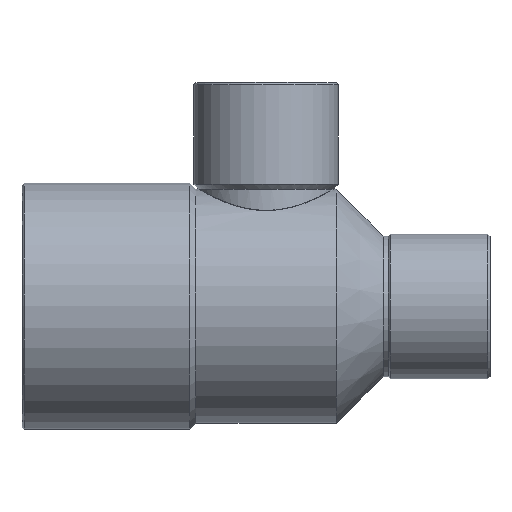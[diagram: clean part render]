
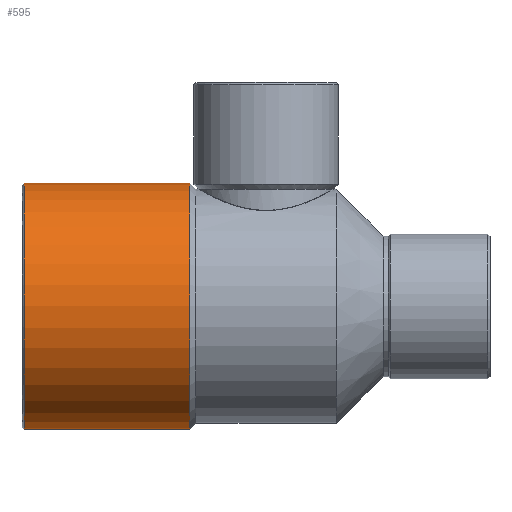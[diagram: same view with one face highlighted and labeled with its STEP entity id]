
A CAD part, top view. The second image highlights one B-rep face of the part: STEP entity #595.
In plain terms, the highlighted cylindrical face has radius 12.1 mm (diameter 24.2 mm), a partial arc.
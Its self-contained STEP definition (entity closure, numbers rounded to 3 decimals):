
#130=CARTESIAN_POINT('',(-7.518,12.1,0.0));
#131=VERTEX_POINT('',#130);
#138=CARTESIAN_POINT('',(-7.518,-12.1,0.));
#139=VERTEX_POINT('',#138);
#140=CARTESIAN_POINT('',(-7.518,0.0,0.0));
#141=DIRECTION('',(1.0,0.0,0.0));
#142=DIRECTION('',(0.0,1.0,0.0));
#143=AXIS2_PLACEMENT_3D('',#140,#141,#142);
#144=CIRCLE('',#143,12.1);
#145=EDGE_CURVE('',#131,#139,#144,.T.);
#564=CARTESIAN_POINT('',(-15.759,0.0,0.0));
#565=DIRECTION('',(1.0,0.0,0.0));
#566=DIRECTION('',(0.0,1.0,0.0));
#567=AXIS2_PLACEMENT_3D('',#564,#565,#566);
#568=CYLINDRICAL_SURFACE('',#567,12.1);
#569=CARTESIAN_POINT('',(-23.8,12.1,0.));
#570=VERTEX_POINT('',#569);
#571=CARTESIAN_POINT('',(-23.8,12.1,0.));
#572=DIRECTION('',(1.0,0.0,0.0));
#573=VECTOR('',#572,16.282);
#574=LINE('',#571,#573);
#575=EDGE_CURVE('',#570,#131,#574,.T.);
#576=ORIENTED_EDGE('',*,*,#575,.F.);
#577=CARTESIAN_POINT('',(-23.8,-12.1,0.));
#578=VERTEX_POINT('',#577);
#579=CARTESIAN_POINT('',(-23.8,0.0,0.0));
#580=DIRECTION('',(-1.0,0.0,0.0));
#581=DIRECTION('',(0.0,-1.0,0.0));
#582=AXIS2_PLACEMENT_3D('',#579,#580,#581);
#583=CIRCLE('',#582,12.1);
#584=EDGE_CURVE('',#578,#570,#583,.T.);
#585=ORIENTED_EDGE('',*,*,#584,.F.);
#586=CARTESIAN_POINT('',(-7.518,-12.1,0.));
#587=DIRECTION('',(-1.0,0.0,0.0));
#588=VECTOR('',#587,16.282);
#589=LINE('',#586,#588);
#590=EDGE_CURVE('',#139,#578,#589,.T.);
#591=ORIENTED_EDGE('',*,*,#590,.F.);
#592=ORIENTED_EDGE('',*,*,#145,.F.);
#593=EDGE_LOOP('',(#576,#585,#591,#592));
#594=FACE_OUTER_BOUND('',#593,.T.);
#595=ADVANCED_FACE('',(#594),#568,.T.);
